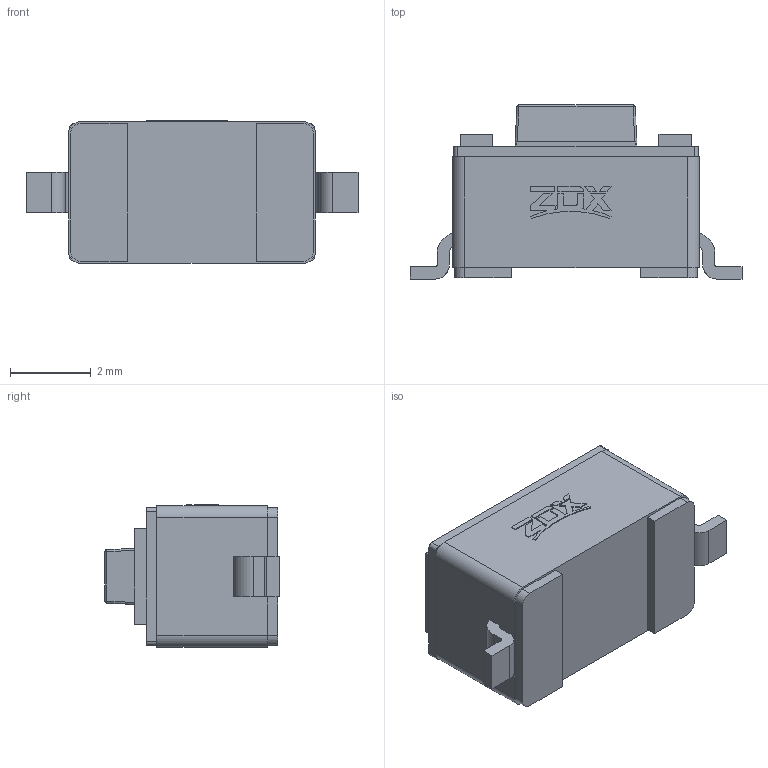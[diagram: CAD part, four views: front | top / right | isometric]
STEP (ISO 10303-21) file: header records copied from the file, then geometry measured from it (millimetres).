
FILE_DESCRIPTION((''),'2;1');
FILE_NAME('ASM0001_ASM','2024-01-07T',('WYH'),(''),'PRO/ENGINEER BY PARAMETRIC TECHNOLOGY CORPORATION, 2013040','PRO/ENGINEER BY PARAMETRIC TECHNOLOGY CORPORATION, 2013040','');
FILE_SCHEMA(('CONFIG_CONTROL_DESIGN'));
Length unit declared in the file: millimetre
Products named in the file (1): ASM0001_ASM
Bounding box: 8.2 x 4.3 x 3.52 mm (x, y, z)
Volume: 72.1 mm3; surface area: 164.3 mm2
Topology: 1 solids, 1 shells, 156 faces, 404 edges, 260 vertices
Faces by surface type: plane 114, cylinder 38, sphere 4
Entity records: 4770 total; most frequent: CARTESIAN_POINT 904, ORIENTED_EDGE 800, DIRECTION 768, EDGE_CURVE 400, VECTOR 312, LINE 312, VERTEX_POINT 260, AXIS2_PLACEMENT_3D 228
